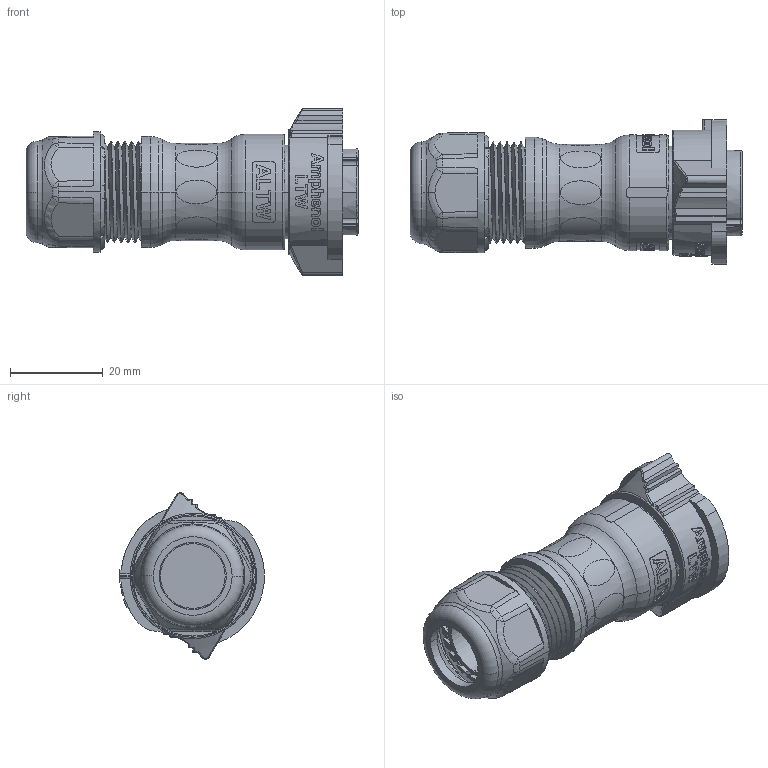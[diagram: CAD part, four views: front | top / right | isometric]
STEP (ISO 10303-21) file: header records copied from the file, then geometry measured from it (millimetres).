
FILE_DESCRIPTION((''),'2;1');
FILE_NAME('DD-14BFFA-QL8AN0','2021-10-26T',('L210038'),(''),'PRO/ENGINEER BY PARAMETRIC TECHNOLOGY CORPORATION, 2017170','PRO/ENGINEER BY PARAMETRIC TECHNOLOGY CORPORATION, 2017170','');
FILE_SCHEMA(('CONFIG_CONTROL_DESIGN'));
Products named in the file (1): DD-14BFFA-QL8AN0
Bounding box: 71.75 x 31.26 x 36 mm (x, y, z)
Volume: 21795 mm3; surface area: 15671.3 mm2
Topology: 2 solids, 2 shells, 1301 faces, 3638 edges, 2384 vertices
Faces by surface type: plane 404, cylinder 263, extrusion 244, bspline 196, cone 94, torus 81, sphere 19
Entity records: 63021 total; most frequent: CARTESIAN_POINT 28676, ORIENTED_EDGE 7272, DIRECTION 4896, EDGE_CURVE 3636, VERTEX_POINT 2384, B_SPLINE_CURVE_WITH_KNOTS 1769, AXIS2_PLACEMENT_3D 1680, VECTOR 1536
